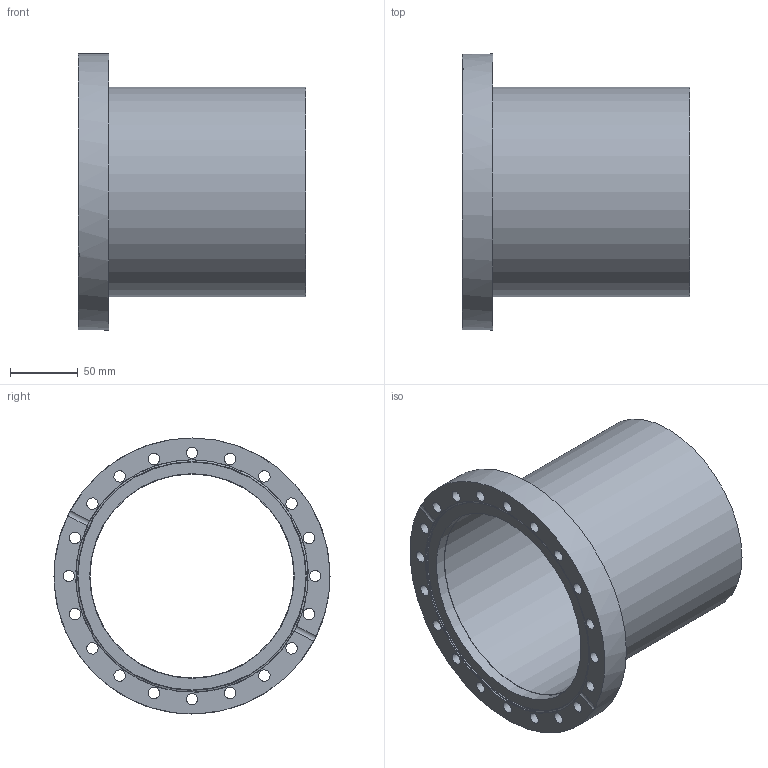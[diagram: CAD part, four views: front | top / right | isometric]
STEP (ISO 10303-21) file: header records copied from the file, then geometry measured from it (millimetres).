
FILE_DESCRIPTION( ( 'Unknown' ), '1' );
FILE_NAME( 'X:/Daten ( aktueller Bestand )/Projekte und Zeichnungen/Solid Edge/STP-Dateien/CF-Teile/7575F4.stp', 'Unknown', ( 'Unknown' ), ( 'Unknown' ), 'PSStep 14.0', 'Unknown', ' ' );
FILE_SCHEMA( ( 'AUTOMOTIVE_DESIGN { 1 0 10303 214 1 1 1 1 }' ) );
Length unit declared in the file: millimetre
Products named in the file (5): 7515F; 7575F-1; Assem1
Assembly tree (4 placements, depth 3):
  Assem1
    7515F
      7515F
    7575F-1
      7575F-1
Bounding box: 167 x 203 x 203 mm (x, y, z)
Volume: 432146 mm3; surface area: 216229.9 mm2
Topology: 2 solids, 2 shells, 37 faces, 114 edges, 82 vertices
Faces by surface type: cylinder 28, plane 7, cone 2
Full cylindrical faces by diameter (mm): 8.4 x20, 150 x1, 150.5 x1, 154 x1, 154.5 x1, 171 x1, 203 x1
Entity records: 1536 total; most frequent: CARTESIAN_POINT 236, DIRECTION 204, ORIENTED_EDGE 128, EDGE_LOOP 110, AXIS2_PLACEMENT_3D 100, EDGE_CURVE 64, FACE_OUTER_BOUND 63, VERTEX_POINT 60
